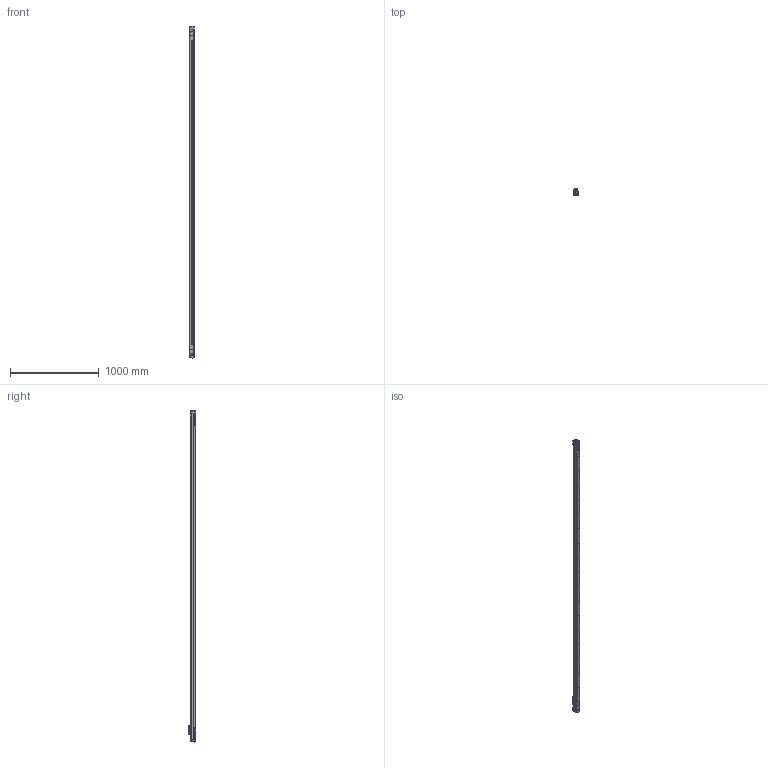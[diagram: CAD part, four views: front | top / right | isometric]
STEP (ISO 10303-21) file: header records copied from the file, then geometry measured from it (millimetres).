
FILE_DESCRIPTION(('Creo Elements/Direct Modeling STEP Export'),'2;1');
FILE_NAME('Regla L-34.stp','2011-10-03T10:26:24',(''),(''),'Creo Elements/Direct Modeling STEP processor for AP214 (Solid Model)','Creo Elements/Direct Modeling 17.0C 05-Feb-2011 (C) Parametric Technology GmbH','');
FILE_SCHEMA(('AUTOMOTIVE_DESIGN { 1 0 10303 214 1 1 1 1 }'));
Products named in the file (3): L-34_PERFIL; L-34_CABEZA; L-34
Assembly tree (2 placements, depth 2):
  L-34
    L-34_CABEZA
    L-34_PERFIL
Bounding box: 50 x 86.45 x 3749.1 mm (x, y, z)
Volume: 9597719.5 mm3; surface area: 1140117 mm2
Topology: 3 solids, 21 shells, 2404 faces, 6917 edges, 4554 vertices
Faces by surface type: cylinder 1123, plane 1062, cone 114, torus 78, sphere 18, bspline 9
Entity records: 86996 total; most frequent: CARTESIAN_POINT 24134, ORIENTED_EDGE 13802, DIRECTION 11551, EDGE_CURVE 6901, VERTEX_POINT 4552, AXIS2_PLACEMENT_3D 3912, VECTOR 3727, LINE 3727
